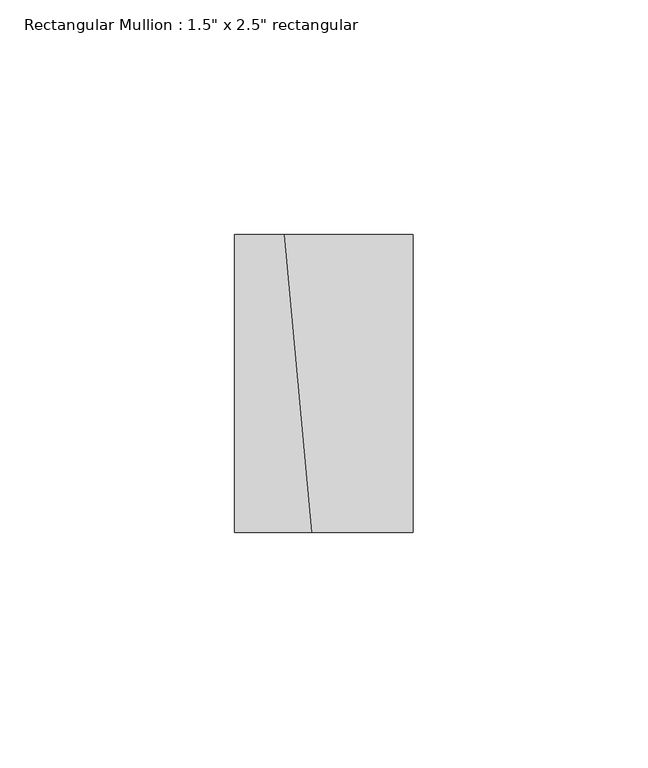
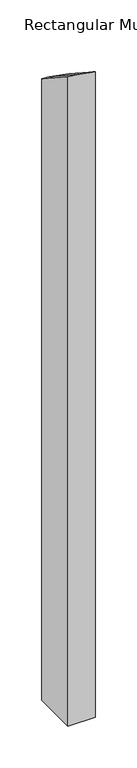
"""IFC4 building model written with IfcOpenShell, lengths in millimetres: member geometry."""

from ifc_helpers import new_model, si_unit, origin, place, context, project, spatial, faceted_brep, source, transform, mapped, element, save


def member_fd70117c(model_context):
    return source(origin(), model_context, "Body", "Brep", [
        faceted_brep([(19.05, 31.75, -969.9544416), (19.05, -31.75, -969.9544416), (-19.05, -31.75, -969.9544416), (-19.05, 31.75, -969.9544416), (-19.05, 31.75, -56.2424429), (-8.3262467, 31.75, -57.5350456), (19.05, 31.75, -62.1633466), (-19.05, -31.75, -15.1744348), (19.05, -31.75, -20.8118817), (-2.4849384, -31.75, -17.1711278)], [[[0, 1, 2, 3]], [[4, 5, 6, 0, 3]], [[7, 4, 3, 2]], [[8, 9, 7, 2, 1]], [[6, 8, 1, 0]], [[6, 5, 9, 8]], [[5, 4, 7, 9]]]),
    ])


if __name__ == "__main__":
    model = new_model("IFC4")
    model_context = context("Model", 3, world=origin())
    ifc_project = project(units=[si_unit("LENGTHUNIT", "METRE", prefix="MILLI")], contexts=[model_context])
    site = spatial("IfcSite", under=ifc_project)
    building = spatial("IfcBuilding", under=site)
    placement = place(None, origin())
    member_shape = member_fd70117c(model_context)
    element("IfcMember", 1, ObjectType="Rectangular Mullion : 1.5\" x 2.5\" rectangular", at=placement, inside=building, context=model_context, shape_type="MappedRepresentation", body=[
        mapped(member_shape, transform((0.0, 0.0, 0.0), x_axis=(1.0, 0.0, 0.0), y_axis=(0.0, 1.0, 0.0), z_axis=(0.0, 0.0, 1.0))),
    ])
    save(model, "model.ifc")
